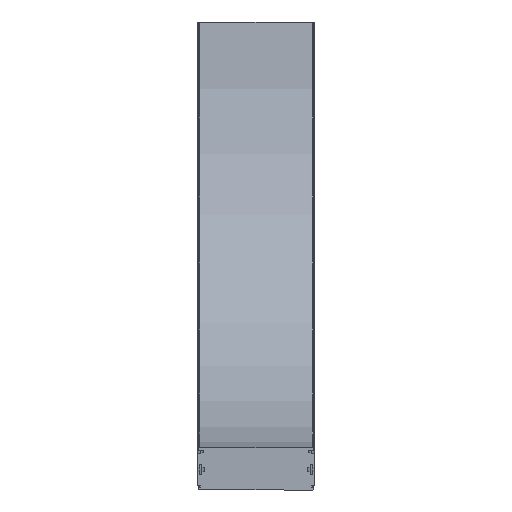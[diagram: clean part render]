
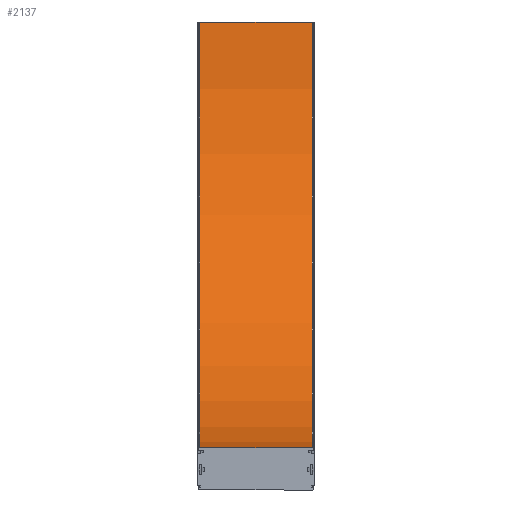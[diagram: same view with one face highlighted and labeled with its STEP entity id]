
A CAD part, front view. The second image highlights one B-rep face of the part: STEP entity #2137.
In plain terms, the highlighted cylindrical face has radius 818 mm (diameter 1636 mm), a partial arc.
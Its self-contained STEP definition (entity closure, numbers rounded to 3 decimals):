
#62=CYLINDRICAL_SURFACE('',#2337,818.);
#225=CIRCLE('',#2336,818.);
#226=CIRCLE('',#2338,818.);
#336=FACE_OUTER_BOUND('',#454,.T.);
#454=EDGE_LOOP('',(#1769,#1770,#1771,#1772));
#615=LINE('',#8201,#793);
#616=LINE('',#8203,#794);
#793=VECTOR('',#2838,10.);
#794=VECTOR('',#2839,10.);
#1005=VERTEX_POINT('',#8194);
#1006=VERTEX_POINT('',#8196);
#1007=VERTEX_POINT('',#8200);
#1008=VERTEX_POINT('',#8202);
#1304=EDGE_CURVE('',#1005,#1006,#225,.T.);
#1305=EDGE_CURVE('',#1007,#1005,#615,.T.);
#1306=EDGE_CURVE('',#1008,#1006,#616,.T.);
#1307=EDGE_CURVE('',#1007,#1008,#226,.T.);
#1769=ORIENTED_EDGE('',*,*,#1305,.T.);
#1770=ORIENTED_EDGE('',*,*,#1304,.T.);
#1771=ORIENTED_EDGE('',*,*,#1306,.F.);
#1772=ORIENTED_EDGE('',*,*,#1307,.F.);
#2137=ADVANCED_FACE('',(#336),#62,.F.);
#2336=AXIS2_PLACEMENT_3D('',#8198,#2834,#2835);
#2337=AXIS2_PLACEMENT_3D('',#8199,#2836,#2837);
#2338=AXIS2_PLACEMENT_3D('',#8204,#2840,#2841);
#2834=DIRECTION('center_axis',(1.,0.,0.));
#2835=DIRECTION('ref_axis',(0.,0.,-1.));
#2836=DIRECTION('center_axis',(1.,0.,0.));
#2837=DIRECTION('ref_axis',(0.,0.,-1.));
#2838=DIRECTION('',(1.,0.,0.));
#2839=DIRECTION('',(1.,0.,0.));
#2840=DIRECTION('center_axis',(1.,0.,0.));
#2841=DIRECTION('ref_axis',(0.,0.,-1.));
#8194=CARTESIAN_POINT('',(108.5,0.,42.));
#8196=CARTESIAN_POINT('',(108.5,818.,860.));
#8198=CARTESIAN_POINT('Origin',(108.5,0.,860.));
#8199=CARTESIAN_POINT('Origin',(-54.25,0.,860.));
#8200=CARTESIAN_POINT('',(-108.5,0.,42.));
#8201=CARTESIAN_POINT('',(-108.5,0.,42.));
#8202=CARTESIAN_POINT('',(-108.5,818.,860.));
#8203=CARTESIAN_POINT('',(-108.5,818.,860.));
#8204=CARTESIAN_POINT('Origin',(-108.5,0.,860.));
